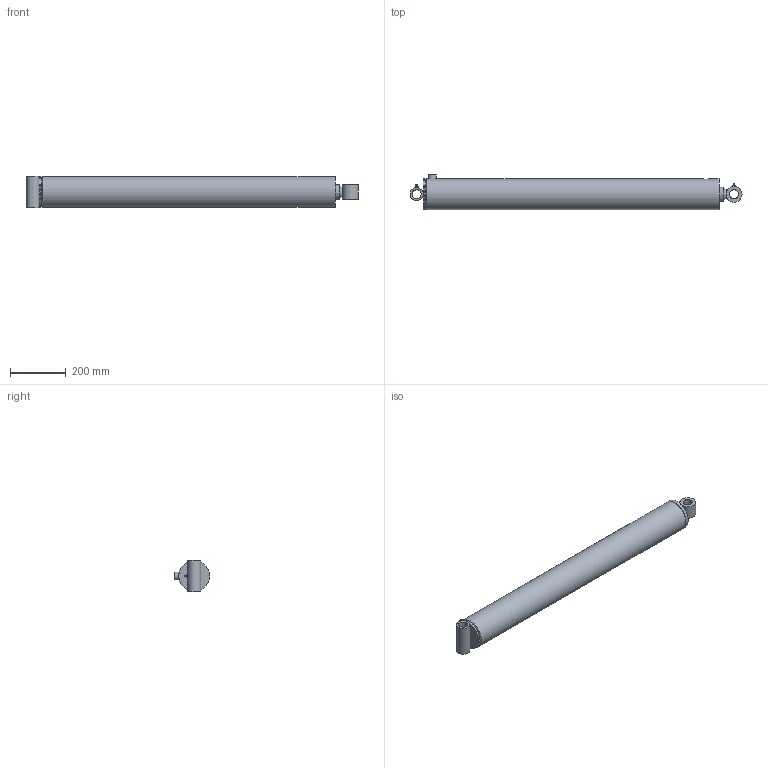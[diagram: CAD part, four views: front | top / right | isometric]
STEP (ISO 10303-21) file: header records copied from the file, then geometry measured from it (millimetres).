
FILE_DESCRIPTION((''),'2;1');
FILE_NAME('C:\Documents and Settings\NewtonB\My Documents\_Vest\090122_PMC5636\PMC-5636.stp','2009-01-29T09:56:00',('newtonb'),(''),'Autodesk Inventor 2008','Autodesk Inventor 2008','');
FILE_SCHEMA(('AUTOMOTIVE_DESIGN { 1 0 10303 214 1 1 1 1 }'));
Length unit declared in the file: inch
Products named in the file (22): PMC-5636; 061900042; 051900064; 161900081; 200014404; 210600086; 021100306; 011100876; 210600347; 071900019; 081900451; 220000212; 240004008; 240034342; 240000342; 240000026; 240061342; 240020009; 230001400; 200018003; 270010002; 250001329
Assembly tree (25 placements, depth 3):
  PMC-5636
    061900042
      051900064
      161900081
      200014404
      210600086
    021100306
      011100876
      210600347
    071900019
    081900451
    220000212
    240004008
    240034342  x2
    240000342  x2
    240000026
    240061342
    240020009
    230001400
    200018003  x2
    270010002  x2
    250001329
Bounding box: 1195.39 x 127 x 114.3 mm (x, y, z)
Volume: 4764594.9 mm3; surface area: 1098161.2 mm2
Topology: 23 solids, 23 shells, 258 faces, 527 edges, 319 vertices
Faces by surface type: plane 114, cylinder 61, cone 36, torus 23, bspline 22, sphere 2
Full cylindrical faces by diameter (mm): 1.524 x2, 3.175 x2, 8.839 x1, 9.08 x2, 12.7 x1, 23.813 x1, 28.575 x1, 31.699 x1, 31.826 x1, 32.258 x1, 32.385 x1, 34.29 x1, 47.625 x1, 50.8 x2, 50.876 x2, 51.752 x1, 54.61 x1, 57.15 x1, 58.725 x2, 59.373 x1, 60.325 x2, 63.5 x1, 80.95 x1, 91.592 x1, 92.202 x1, 92.71 x3, 92.964 x1, 95.25 x1, 99.822 x1, 101.194 x3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
Entity records: 6856 total; most frequent: CARTESIAN_POINT 2110, DIRECTION 941, ORIENTED_EDGE 628, AXIS2_PLACEMENT_3D 431, EDGE_LOOP 380, EDGE_CURVE 314, VERTEX_POINT 254, FACE_OUTER_BOUND 218
